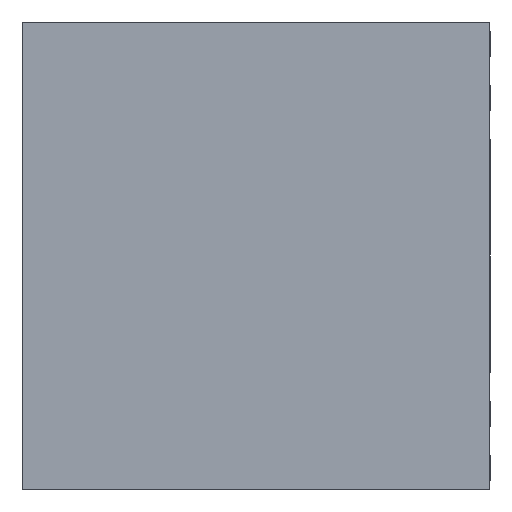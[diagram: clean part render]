
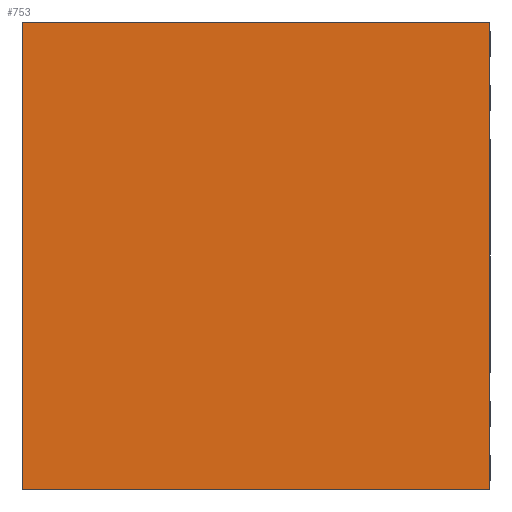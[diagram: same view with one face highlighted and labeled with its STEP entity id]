
A CAD part, front view. The second image highlights one B-rep face of the part: STEP entity #753.
In plain terms, the highlighted planar face has unit normal (0, -1, 0).
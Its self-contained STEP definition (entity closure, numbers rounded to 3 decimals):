
#162 = VECTOR ( 'NONE', #9896, 1000. ) ;
#288 = LINE ( 'NONE', #9019, #162 ) ;
#323 = CARTESIAN_POINT ( 'NONE',  ( -12.1, 0., 12.1 ) ) ;
#516 = LINE ( 'NONE', #7365, #5089 ) ;
#664 = VERTEX_POINT ( 'NONE', #6733 ) ;
#753 = ADVANCED_FACE ( 'NONE', ( #4772 ), #2109, .F. ) ;
#1414 = DIRECTION ( 'NONE',  ( 0., 1., 0. ) ) ;
#1822 = AXIS2_PLACEMENT_3D ( 'NONE', #9158, #1414, #4544 ) ;
#1856 = ORIENTED_EDGE ( 'NONE', *, *, #3107, .F. ) ;
#2045 = EDGE_CURVE ( 'NONE', #4971, #664, #288, .T. ) ;
#2109 = PLANE ( 'NONE',  #1822 ) ;
#2247 = EDGE_LOOP ( 'NONE', ( #4199, #1856, #7995, #8159 ) ) ;
#2377 = CARTESIAN_POINT ( 'NONE',  ( 12.1, 0., -12.1 ) ) ;
#2697 = VERTEX_POINT ( 'NONE', #7110 ) ;
#3107 = EDGE_CURVE ( 'NONE', #664, #8796, #7180, .T. ) ;
#3285 = DIRECTION ( 'NONE',  ( 0., 0., -1. ) ) ;
#3490 = LINE ( 'NONE', #8749, #5744 ) ;
#3804 = CARTESIAN_POINT ( 'NONE',  ( 12.1, 0., 12.1 ) ) ;
#4088 = VECTOR ( 'NONE', #5362, 1000. ) ;
#4199 = ORIENTED_EDGE ( 'NONE', *, *, #6669, .T. ) ;
#4544 = DIRECTION ( 'NONE',  ( 0., 0., 1. ) ) ;
#4772 = FACE_OUTER_BOUND ( 'NONE', #2247, .T. ) ;
#4971 = VERTEX_POINT ( 'NONE', #323 ) ;
#5089 = VECTOR ( 'NONE', #3285, 1000. ) ;
#5362 = DIRECTION ( 'NONE',  ( 0., 0., -1. ) ) ;
#5630 = EDGE_CURVE ( 'NONE', #4971, #2697, #516, .T. ) ;
#5744 = VECTOR ( 'NONE', #7310, 1000. ) ;
#6669 = EDGE_CURVE ( 'NONE', #2697, #8796, #3490, .T. ) ;
#6733 = CARTESIAN_POINT ( 'NONE',  ( 12.1, 0., 12.1 ) ) ;
#7110 = CARTESIAN_POINT ( 'NONE',  ( -12.1, 0., -12.1 ) ) ;
#7180 = LINE ( 'NONE', #3804, #4088 ) ;
#7310 = DIRECTION ( 'NONE',  ( 1., 0., 0. ) ) ;
#7365 = CARTESIAN_POINT ( 'NONE',  ( -12.1, 0., 12.1 ) ) ;
#7995 = ORIENTED_EDGE ( 'NONE', *, *, #2045, .F. ) ;
#8159 = ORIENTED_EDGE ( 'NONE', *, *, #5630, .T. ) ;
#8749 = CARTESIAN_POINT ( 'NONE',  ( -12.1, 0., -12.1 ) ) ;
#8796 = VERTEX_POINT ( 'NONE', #2377 ) ;
#9019 = CARTESIAN_POINT ( 'NONE',  ( -12.1, 0., 12.1 ) ) ;
#9158 = CARTESIAN_POINT ( 'NONE',  ( -12.1, 0., 12.1 ) ) ;
#9896 = DIRECTION ( 'NONE',  ( 1., 0., 0. ) ) ;
